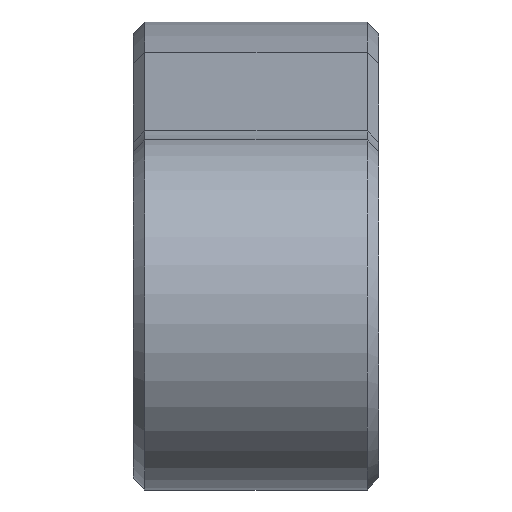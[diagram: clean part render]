
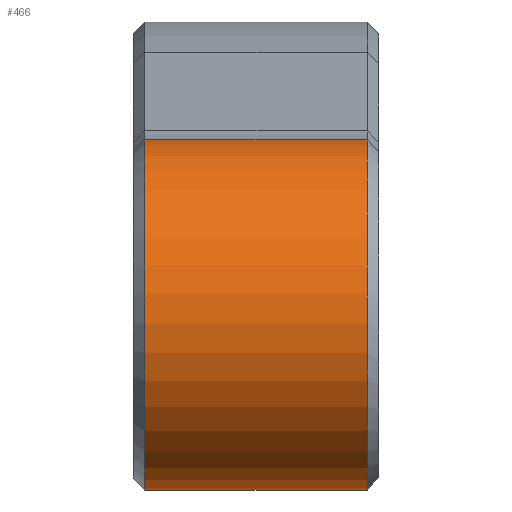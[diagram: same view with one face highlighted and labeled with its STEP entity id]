
A CAD part, left-side view. The second image highlights one B-rep face of the part: STEP entity #466.
In plain terms, the highlighted cylindrical face has radius 15 mm (diameter 30 mm), a partial arc.
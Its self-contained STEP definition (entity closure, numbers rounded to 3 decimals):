
#19 = VECTOR ( 'NONE', #1626, 1000. ) ;
#41 = CARTESIAN_POINT ( 'NONE',  ( 0., -3.5, -15. ) ) ;
#45 = DIRECTION ( 'NONE',  ( 0., 0., -1. ) ) ;
#94 = EDGE_LOOP ( 'NONE', ( #809, #346, #738, #1485 ) ) ;
#138 = VERTEX_POINT ( 'NONE', #1389 ) ;
#159 = LINE ( 'NONE', #576, #456 ) ;
#194 = CARTESIAN_POINT ( 'NONE',  ( 0., 15.5, 0. ) ) ;
#320 = VERTEX_POINT ( 'NONE', #997 ) ;
#346 = ORIENTED_EDGE ( 'NONE', *, *, #625, .T. ) ;
#456 = VECTOR ( 'NONE', #878, 1000. ) ;
#466 = ADVANCED_FACE ( 'NONE', ( #622 ), #1800, .T. ) ;
#490 = DIRECTION ( 'NONE',  ( 0., 0., -1. ) ) ;
#498 = DIRECTION ( 'NONE',  ( 0., 0., -1. ) ) ;
#544 = CIRCLE ( 'NONE', #1553, 15. ) ;
#576 = CARTESIAN_POINT ( 'NONE',  ( 0., 12., -15. ) ) ;
#622 = FACE_OUTER_BOUND ( 'NONE', #94, .T. ) ;
#625 = EDGE_CURVE ( 'NONE', #1021, #875, #159, .T. ) ;
#708 = EDGE_CURVE ( 'NONE', #138, #320, #897, .T. ) ;
#738 = ORIENTED_EDGE ( 'NONE', *, *, #1793, .T. ) ;
#774 = DIRECTION ( 'NONE',  ( 0., -1., 0. ) ) ;
#809 = ORIENTED_EDGE ( 'NONE', *, *, #819, .T. ) ;
#812 = CIRCLE ( 'NONE', #1312, 15. ) ;
#819 = EDGE_CURVE ( 'NONE', #138, #1021, #812, .T. ) ;
#875 = VERTEX_POINT ( 'NONE', #41 ) ;
#878 = DIRECTION ( 'NONE',  ( 0., -1., 0. ) ) ;
#897 = LINE ( 'NONE', #1179, #19 ) ;
#997 = CARTESIAN_POINT ( 'NONE',  ( -1.54, -3.5, 14.921 ) ) ;
#1021 = VERTEX_POINT ( 'NONE', #1246 ) ;
#1179 = CARTESIAN_POINT ( 'NONE',  ( -1.54, 12., 14.921 ) ) ;
#1246 = CARTESIAN_POINT ( 'NONE',  ( 0., 15.5, -15. ) ) ;
#1291 = DIRECTION ( 'NONE',  ( 0., 1., 0. ) ) ;
#1312 = AXIS2_PLACEMENT_3D ( 'NONE', #194, #1787, #490 ) ;
#1389 = CARTESIAN_POINT ( 'NONE',  ( -1.54, 15.5, 14.921 ) ) ;
#1435 = CARTESIAN_POINT ( 'NONE',  ( 0., -3.5, 0. ) ) ;
#1485 = ORIENTED_EDGE ( 'NONE', *, *, #708, .F. ) ;
#1553 = AXIS2_PLACEMENT_3D ( 'NONE', #1435, #1291, #498 ) ;
#1626 = DIRECTION ( 'NONE',  ( 0., -1., 0. ) ) ;
#1716 = AXIS2_PLACEMENT_3D ( 'NONE', #1789, #774, #45 ) ;
#1787 = DIRECTION ( 'NONE',  ( 0., -1., 0. ) ) ;
#1789 = CARTESIAN_POINT ( 'NONE',  ( 0., 12., 0. ) ) ;
#1793 = EDGE_CURVE ( 'NONE', #875, #320, #544, .T. ) ;
#1800 = CYLINDRICAL_SURFACE ( 'NONE', #1716, 15. ) ;
